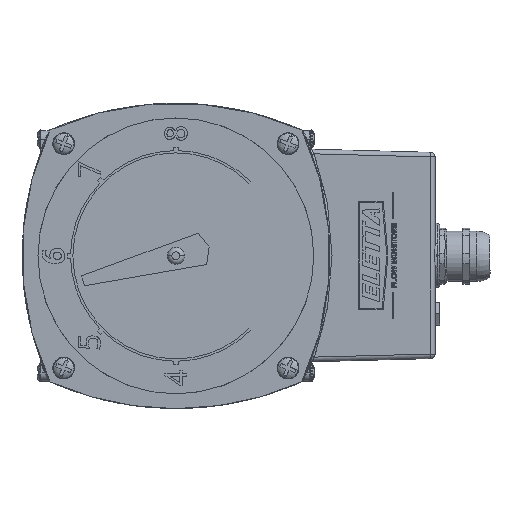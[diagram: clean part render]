
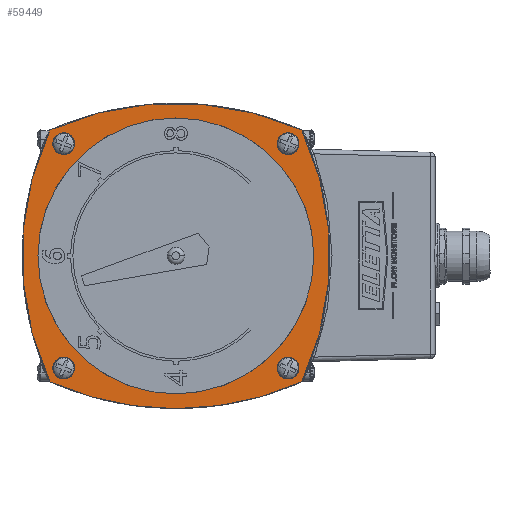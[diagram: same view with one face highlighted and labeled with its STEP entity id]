
A CAD part, left-side view. The second image highlights one B-rep face of the part: STEP entity #59449.
In plain terms, the highlighted planar face has unit normal (-1, 0, 0).
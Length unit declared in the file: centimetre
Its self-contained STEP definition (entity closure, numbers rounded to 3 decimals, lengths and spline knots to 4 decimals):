
#309 = AXIS2_PLACEMENT_3D ( 'NONE', #85161, #53568, #62145 ) ;
#639 = CARTESIAN_POINT ( 'NONE',  ( 7.581, 7.2154, 2.9968 ) ) ;
#1053 = AXIS2_PLACEMENT_3D ( 'NONE', #32517, #9176, #64056 ) ;
#1164 = DIRECTION ( 'NONE',  ( 0., 0., -1. ) ) ;
#1278 = FACE_BOUND ( 'NONE', #85814, .T. ) ;
#1535 = CARTESIAN_POINT ( 'NONE',  ( 7.581, -3.9638, -1.9032 ) ) ;
#2309 = CIRCLE ( 'NONE', #72300, 0.3 ) ;
#2354 = VERTEX_POINT ( 'NONE', #52357 ) ;
#3082 = AXIS2_PLACEMENT_3D ( 'NONE', #42323, #35144, #26593 ) ;
#3433 = VERTEX_POINT ( 'NONE', #45893 ) ;
#6172 = DIRECTION ( 'NONE',  ( -1., 0., 0. ) ) ;
#9176 = DIRECTION ( 'NONE',  ( -1., 0., 0. ) ) ;
#10501 = CARTESIAN_POINT ( 'NONE',  ( 7.581, -3.9638, 8.1968 ) ) ;
#10888 = CIRCLE ( 'NONE', #94792, 13. ) ;
#12151 = CIRCLE ( 'NONE', #26351, 0.3 ) ;
#12802 = EDGE_LOOP ( 'NONE', ( #35296, #87249 ) ) ;
#13593 = EDGE_CURVE ( 'NONE', #52819, #3433, #89532, .T. ) ;
#14123 = EDGE_CURVE ( 'NONE', #31041, #68893, #2309, .T. ) ;
#14384 = DIRECTION ( 'NONE',  ( 0., 0., -1. ) ) ;
#17728 = PLANE ( 'NONE',  #71134 ) ;
#17731 = VERTEX_POINT ( 'NONE', #34264 ) ;
#17890 = CIRCLE ( 'NONE', #26613, 6.025 ) ;
#17897 = CARTESIAN_POINT ( 'NONE',  ( 7.581, 5.8362, -2.2032 ) ) ;
#18048 = DIRECTION ( 'NONE',  ( 1., 0., 0. ) ) ;
#18057 = CARTESIAN_POINT ( 'NONE',  ( 7.581, 5.8362, -1.6032 ) ) ;
#18523 = FACE_BOUND ( 'NONE', #83423, .T. ) ;
#20066 = AXIS2_PLACEMENT_3D ( 'NONE', #62038, #85380, #100516 ) ;
#20558 = EDGE_CURVE ( 'NONE', #34295, #64187, #28804, .T. ) ;
#21020 = CIRCLE ( 'NONE', #45026, 0.3 ) ;
#21933 = VERTEX_POINT ( 'NONE', #55545 ) ;
#22210 = ORIENTED_EDGE ( 'NONE', *, *, #30666, .F. ) ;
#22962 = ORIENTED_EDGE ( 'NONE', *, *, #94320, .F. ) ;
#24862 = DIRECTION ( 'NONE',  ( -1., 0., 0. ) ) ;
#25085 = CIRCLE ( 'NONE', #3082, 13. ) ;
#25891 = FACE_BOUND ( 'NONE', #86933, .T. ) ;
#25981 = DIRECTION ( 'NONE',  ( 1., 0., 0. ) ) ;
#26351 = AXIS2_PLACEMENT_3D ( 'NONE', #51664, #27715, #91158 ) ;
#26593 = DIRECTION ( 'NONE',  ( 0., 0., -1. ) ) ;
#26613 = AXIS2_PLACEMENT_3D ( 'NONE', #35086, #73835, #35418 ) ;
#27078 = EDGE_CURVE ( 'NONE', #62009, #2354, #12151, .T. ) ;
#27571 = CIRCLE ( 'NONE', #20066, 13.5 ) ;
#27715 = DIRECTION ( 'NONE',  ( -1., 0., 0. ) ) ;
#28804 = CIRCLE ( 'NONE', #100924, 0.3 ) ;
#30164 = DIRECTION ( 'NONE',  ( 0., 0., -1. ) ) ;
#30625 = DIRECTION ( 'NONE',  ( 1., 0., 0. ) ) ;
#30666 = EDGE_CURVE ( 'NONE', #43260, #47496, #27571, .T. ) ;
#31041 = VERTEX_POINT ( 'NONE', #10501 ) ;
#31994 = VERTEX_POINT ( 'NONE', #63617 ) ;
#32517 = CARTESIAN_POINT ( 'NONE',  ( 7.581, -3.9638, 7.8968 ) ) ;
#32767 = DIRECTION ( 'NONE',  ( 0., 0., -1. ) ) ;
#32956 = ORIENTED_EDGE ( 'NONE', *, *, #72826, .F. ) ;
#33486 = DIRECTION ( 'NONE',  ( 0., 0., -1. ) ) ;
#33533 = CARTESIAN_POINT ( 'NONE',  ( 7.581, 0.9362, 9.8257 ) ) ;
#34264 = CARTESIAN_POINT ( 'NONE',  ( 7.581, 0.9362, 9.0218 ) ) ;
#34295 = VERTEX_POINT ( 'NONE', #18057 ) ;
#35086 = CARTESIAN_POINT ( 'NONE',  ( 7.581, 0.9362, 2.9968 ) ) ;
#35144 = DIRECTION ( 'NONE',  ( 1., 0., 0. ) ) ;
#35296 = ORIENTED_EDGE ( 'NONE', *, *, #83082, .F. ) ;
#35418 = DIRECTION ( 'NONE',  ( 0., 0., -1. ) ) ;
#36882 = CIRCLE ( 'NONE', #44690, 0.3 ) ;
#38376 = CARTESIAN_POINT ( 'NONE',  ( 7.581, -3.9638, 7.8968 ) ) ;
#41002 = EDGE_CURVE ( 'NONE', #66913, #43260, #25085, .T. ) ;
#41915 = ORIENTED_EDGE ( 'NONE', *, *, #13593, .F. ) ;
#42323 = CARTESIAN_POINT ( 'NONE',  ( 7.581, -5.343, 2.9968 ) ) ;
#43260 = VERTEX_POINT ( 'NONE', #78189 ) ;
#44412 = DIRECTION ( 'NONE',  ( 0., 0., -1. ) ) ;
#44690 = AXIS2_PLACEMENT_3D ( 'NONE', #71137, #24862, #55025 ) ;
#44901 = ORIENTED_EDGE ( 'NONE', *, *, #46511, .F. ) ;
#45026 = AXIS2_PLACEMENT_3D ( 'NONE', #45084, #91477, #44412 ) ;
#45084 = CARTESIAN_POINT ( 'NONE',  ( 7.581, 5.8362, 7.8968 ) ) ;
#45242 = EDGE_CURVE ( 'NONE', #64187, #34295, #36882, .T. ) ;
#45424 = ORIENTED_EDGE ( 'NONE', *, *, #80498, .F. ) ;
#45893 = CARTESIAN_POINT ( 'NONE',  ( 7.581, -3.9638, -2.2032 ) ) ;
#46443 = EDGE_CURVE ( 'NONE', #47496, #21933, #10888, .T. ) ;
#46511 = EDGE_CURVE ( 'NONE', #31994, #66913, #88140, .T. ) ;
#47496 = VERTEX_POINT ( 'NONE', #54910 ) ;
#47971 = ORIENTED_EDGE ( 'NONE', *, *, #46443, .F. ) ;
#49618 = DIRECTION ( 'NONE',  ( 0., 0., -1. ) ) ;
#51027 = CIRCLE ( 'NONE', #309, 6.025 ) ;
#51664 = CARTESIAN_POINT ( 'NONE',  ( 7.581, 5.8362, 7.8968 ) ) ;
#52357 = CARTESIAN_POINT ( 'NONE',  ( 7.581, 5.8362, 7.5968 ) ) ;
#52819 = VERTEX_POINT ( 'NONE', #63163 ) ;
#53441 = DIRECTION ( 'NONE',  ( 1., 0., 0. ) ) ;
#53568 = DIRECTION ( 'NONE',  ( -1., 0., 0. ) ) ;
#54875 = CARTESIAN_POINT ( 'NONE',  ( 7.581, 5.8362, -1.9032 ) ) ;
#54910 = CARTESIAN_POINT ( 'NONE',  ( 7.581, -4.5638, 8.4968 ) ) ;
#55025 = DIRECTION ( 'NONE',  ( 0., 0., -1. ) ) ;
#55545 = CARTESIAN_POINT ( 'NONE',  ( 7.581, -4.5638, -2.5032 ) ) ;
#59324 = CIRCLE ( 'NONE', #1053, 0.3 ) ;
#59449 = ADVANCED_FACE ( 'NONE', ( #1278, #63876, #25891, #18523, #60253, #66333 ), #17728, .F. ) ;
#60253 = FACE_BOUND ( 'NONE', #70611, .T. ) ;
#62009 = VERTEX_POINT ( 'NONE', #75117 ) ;
#62038 = CARTESIAN_POINT ( 'NONE',  ( 7.581, 0.9362, -3.832 ) ) ;
#62145 = DIRECTION ( 'NONE',  ( 0., 0., -1. ) ) ;
#62927 = DIRECTION ( 'NONE',  ( -1., 0., 0. ) ) ;
#63163 = CARTESIAN_POINT ( 'NONE',  ( 7.581, -3.9638, -1.6032 ) ) ;
#63617 = CARTESIAN_POINT ( 'NONE',  ( 7.581, 0.9362, -3.6743 ) ) ;
#63876 = FACE_BOUND ( 'NONE', #12802, .T. ) ;
#64056 = DIRECTION ( 'NONE',  ( 0., 0., -1. ) ) ;
#64187 = VERTEX_POINT ( 'NONE', #17897 ) ;
#66333 = FACE_OUTER_BOUND ( 'NONE', #81328, .T. ) ;
#66844 = AXIS2_PLACEMENT_3D ( 'NONE', #77258, #30625, #78270 ) ;
#66913 = VERTEX_POINT ( 'NONE', #97174 ) ;
#67747 = ORIENTED_EDGE ( 'NONE', *, *, #20558, .F. ) ;
#67787 = CARTESIAN_POINT ( 'NONE',  ( 7.581, 0.9362, -3.0282 ) ) ;
#68893 = VERTEX_POINT ( 'NONE', #88574 ) ;
#70611 = EDGE_LOOP ( 'NONE', ( #45424, #95216 ) ) ;
#71134 = AXIS2_PLACEMENT_3D ( 'NONE', #94964, #18048, #33486 ) ;
#71137 = CARTESIAN_POINT ( 'NONE',  ( 7.581, 5.8362, -1.9032 ) ) ;
#71382 = ORIENTED_EDGE ( 'NONE', *, *, #100831, .F. ) ;
#71736 = AXIS2_PLACEMENT_3D ( 'NONE', #33533, #25981, #49618 ) ;
#72295 = VERTEX_POINT ( 'NONE', #67787 ) ;
#72300 = AXIS2_PLACEMENT_3D ( 'NONE', #38376, #6172, #14384 ) ;
#72676 = DIRECTION ( 'NONE',  ( 0., 0., -1. ) ) ;
#72826 = EDGE_CURVE ( 'NONE', #21933, #31994, #76748, .T. ) ;
#73008 = DIRECTION ( 'NONE',  ( -1., 0., 0. ) ) ;
#73835 = DIRECTION ( 'NONE',  ( -1., 0., 0. ) ) ;
#75117 = CARTESIAN_POINT ( 'NONE',  ( 7.581, 5.8362, 8.1968 ) ) ;
#76207 = ORIENTED_EDGE ( 'NONE', *, *, #27078, .F. ) ;
#76306 = ORIENTED_EDGE ( 'NONE', *, *, #41002, .F. ) ;
#76748 = CIRCLE ( 'NONE', #66844, 13.5 ) ;
#77258 = CARTESIAN_POINT ( 'NONE',  ( 7.581, 0.9362, 9.8257 ) ) ;
#78189 = CARTESIAN_POINT ( 'NONE',  ( 7.581, 6.4362, 8.4968 ) ) ;
#78270 = DIRECTION ( 'NONE',  ( 0., 0., -1. ) ) ;
#80498 = EDGE_CURVE ( 'NONE', #72295, #17731, #17890, .T. ) ;
#80674 = EDGE_CURVE ( 'NONE', #17731, #72295, #51027, .T. ) ;
#80860 = AXIS2_PLACEMENT_3D ( 'NONE', #1535, #87968, #32767 ) ;
#81328 = EDGE_LOOP ( 'NONE', ( #76306, #44901, #32956, #47971, #22210 ) ) ;
#83082 = EDGE_CURVE ( 'NONE', #68893, #31041, #59324, .T. ) ;
#83423 = EDGE_LOOP ( 'NONE', ( #22962, #76207 ) ) ;
#85161 = CARTESIAN_POINT ( 'NONE',  ( 7.581, 0.9362, 2.9968 ) ) ;
#85380 = DIRECTION ( 'NONE',  ( 1., 0., 0. ) ) ;
#85814 = EDGE_LOOP ( 'NONE', ( #95707, #67747 ) ) ;
#86933 = EDGE_LOOP ( 'NONE', ( #71382, #41915 ) ) ;
#87249 = ORIENTED_EDGE ( 'NONE', *, *, #14123, .F. ) ;
#87263 = CARTESIAN_POINT ( 'NONE',  ( 7.581, -3.9638, -1.9032 ) ) ;
#87968 = DIRECTION ( 'NONE',  ( -1., 0., 0. ) ) ;
#88140 = CIRCLE ( 'NONE', #71736, 13.5 ) ;
#88574 = CARTESIAN_POINT ( 'NONE',  ( 7.581, -3.9638, 7.5968 ) ) ;
#89532 = CIRCLE ( 'NONE', #80860, 0.3 ) ;
#90763 = AXIS2_PLACEMENT_3D ( 'NONE', #87263, #62927, #1164 ) ;
#91158 = DIRECTION ( 'NONE',  ( 0., 0., -1. ) ) ;
#91477 = DIRECTION ( 'NONE',  ( -1., 0., 0. ) ) ;
#94320 = EDGE_CURVE ( 'NONE', #2354, #62009, #21020, .T. ) ;
#94792 = AXIS2_PLACEMENT_3D ( 'NONE', #639, #53441, #30164 ) ;
#94964 = CARTESIAN_POINT ( 'NONE',  ( 7.581, 0.9362, 2.9968 ) ) ;
#95216 = ORIENTED_EDGE ( 'NONE', *, *, #80674, .F. ) ;
#95707 = ORIENTED_EDGE ( 'NONE', *, *, #45242, .F. ) ;
#96282 = CIRCLE ( 'NONE', #90763, 0.3 ) ;
#97174 = CARTESIAN_POINT ( 'NONE',  ( 7.581, 6.4362, -2.5032 ) ) ;
#100516 = DIRECTION ( 'NONE',  ( 0., 0., -1. ) ) ;
#100831 = EDGE_CURVE ( 'NONE', #3433, #52819, #96282, .T. ) ;
#100924 = AXIS2_PLACEMENT_3D ( 'NONE', #54875, #73008, #72676 ) ;
